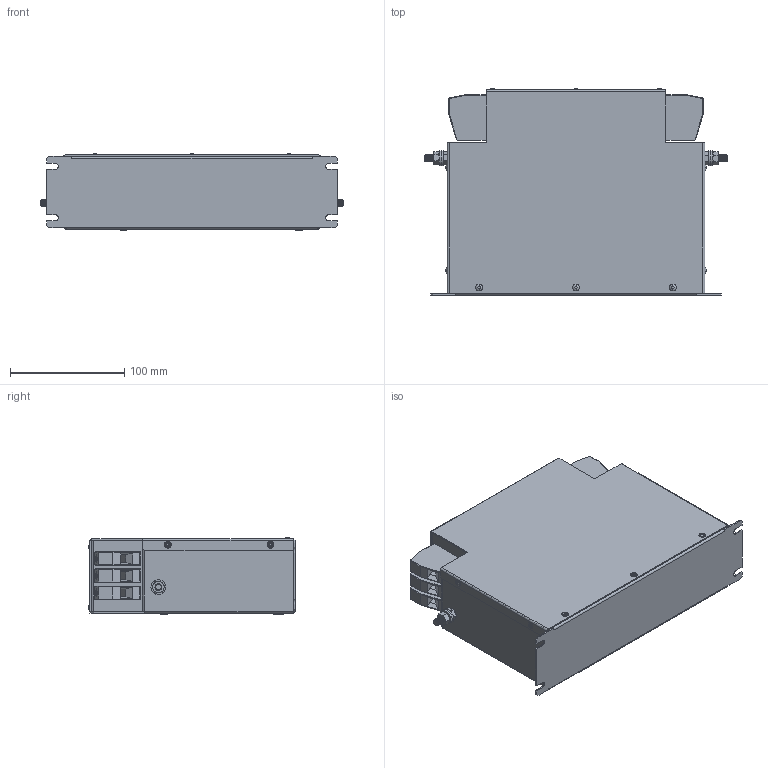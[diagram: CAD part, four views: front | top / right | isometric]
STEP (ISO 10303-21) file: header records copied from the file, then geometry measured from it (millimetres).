
FILE_DESCRIPTION (( 'STEP AP203' ), '1' );
FILE_NAME ('NF-CF-63 (E size).STEP', '2025-02-26T17:26:55', ( '' ), ( '' ), 'SwSTEP 2.0', 'SolidWorks 2017', '' );
FILE_SCHEMA (( 'CONFIG_CONTROL_DESIGN' ));
Length unit declared in the file: millimetre
Products named in the file (10): hex nut style 1_am_B18.2.4.1M - Hex nut, Style 1,  M6 x 1 --D-N; HDFK-16; flat washer narrow_am_B18.22M - Plain washer, 6 mm, narrow; hex screw_am (dont use)_B18.6.7M - M6 x 1.0 x 16 Indented HHMS --16S; M4 Stand-off 2mm; NF-CF-63 (E size); NF-CF-63 (E case); 3.5mm Rivet; M6x16 Earth post; NF-CF-63 (E lid)
Assembly tree (29 placements, depth 3):
  NF-CF-63 (E size)
    NF-CF-63 (E case)
    NF-CF-63 (E lid)
    3.5mm Rivet  x12
    HDFK-16  x6
    M6x16 Earth post  x2
      flat washer narrow_am_B18.22M - Plain washer, 6 mm, narrow
      hex nut style 1_am_B18.2.4.1M - Hex nut, Style 1,  M6 x 1 --D-N
      hex screw_am (dont use)_B18.6.7M - M6 x 1.0 x 16 Indented HHMS --16S
    M4 Stand-off 2mm  x3
Bounding box: 265 x 181 x 66.9 mm (x, y, z)
Volume: 244152.2 mm3; surface area: 306394.9 mm2
Topology: 31 solids, 31 shells, 1193 faces, 2726 edges, 1650 vertices
Faces by surface type: plane 639, cylinder 272, cone 258, torus 24
Entity records: 16992 total; most frequent: DIRECTION 2770, CARTESIAN_POINT 2763, ORIENTED_EDGE 2524, EDGE_CURVE 1262, AXIS2_PLACEMENT_3D 987, LINE 796, VECTOR 796, VERTEX_POINT 764
